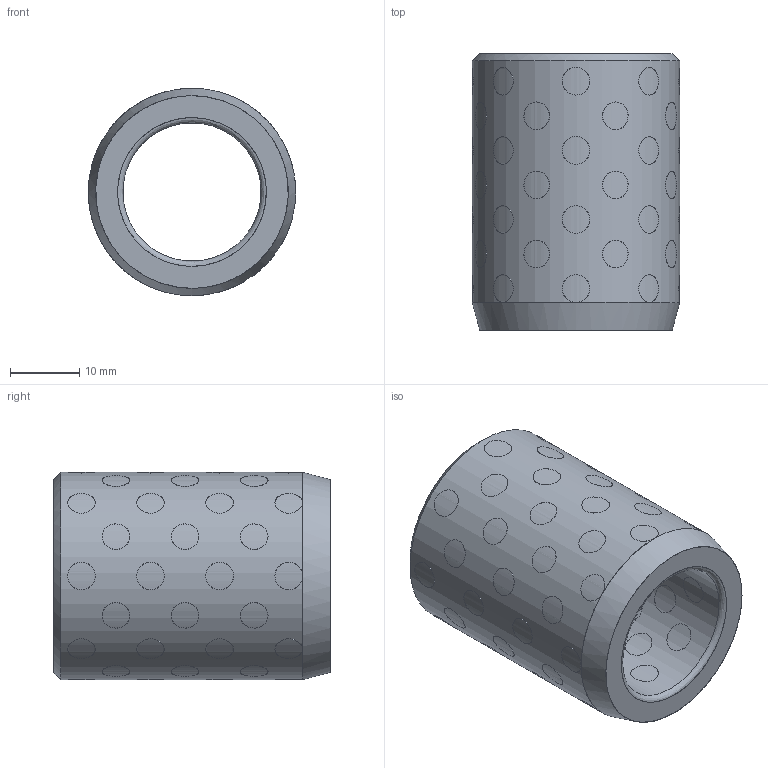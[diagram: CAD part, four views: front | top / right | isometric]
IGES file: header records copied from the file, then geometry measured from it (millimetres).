
Start section: Missler Software BP 521, 31674 Labege Cedex, France Tel   : +33 (0)5 61 00 03 00 Fax   : +33 (0)5 61 00 03 03 Email : sup.topsolid@topsolid.com
Global section: file name: D:\Cuma\18 03 2010\D30.04-2\D30.04_204030.igs; native system: TopSolid v605250 Missler Software; preprocessor: IGES preprocessor v100000; date: 030126.003946; units: millimetre
Bounding box: 30 x 40 x 30 mm (x, y, z)
Surface area: 12556.7 mm2 (no closed solid volume)
Topology: 0 solids, 0 shells, 200 faces, 4373 edges, 4240 vertices
Faces by surface type: bspline 200
